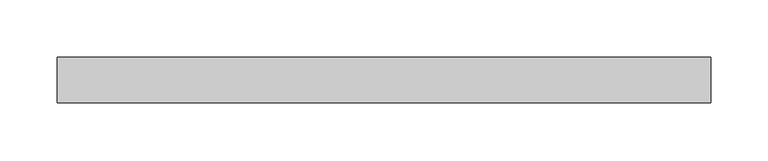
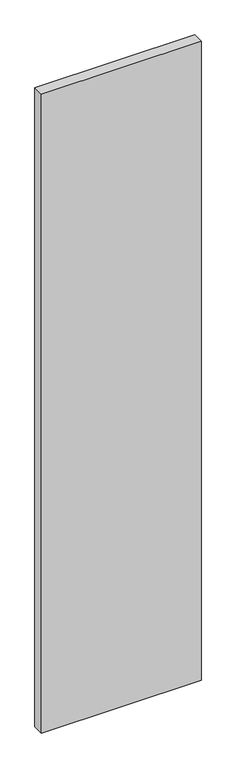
"""IFC4 building model written with IfcOpenShell, lengths in millimetres: plate geometry, Vitré."""

from ifc_helpers import new_model, si_unit, origin, origin_with_axes, place, context, project, spatial, polyline, outline, extrude, source, transform, mapped, element, save


def plate_338ed7fb(model_context):
    return source(origin(), model_context, "Body", "SweptSolid", [
        extrude(outline(polyline([(-285.7550515, -20.0), (-285.7550515, 20.0), (285.7550515, 20.0), (285.7550515, -20.0), (-285.7550515, -20.0)])), origin_with_axes(), (0.0, 0.0, 1.0), 2417.625),
    ])


if __name__ == "__main__":
    model = new_model("IFC4")
    model_context = context("Model", 3, world=origin())
    ifc_project = project(units=[si_unit("LENGTHUNIT", "METRE", prefix="MILLI")], contexts=[model_context])
    site = spatial("IfcSite", under=ifc_project)
    building = spatial("IfcBuilding", under=site)
    placement = place(None, origin())
    plate_shape = plate_338ed7fb(model_context)
    element("IfcPlate", 1, ObjectType="Vitré", at=placement, inside=building, context=model_context, shape_type="MappedRepresentation", body=[
        mapped(plate_shape, transform((0.0, 0.0, 0.0), x_axis=(1.0, 0.0, 0.0), y_axis=(0.0, 1.0, 0.0), z_axis=(0.0, 0.0, 1.0))),
    ])
    save(model, "model.ifc")
